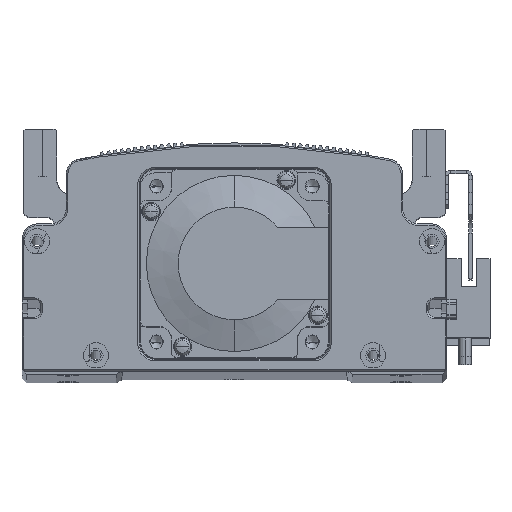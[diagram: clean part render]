
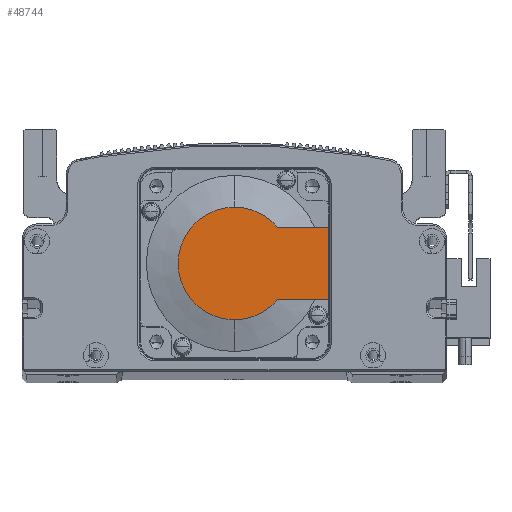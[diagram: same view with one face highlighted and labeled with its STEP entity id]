
A CAD part, top view. The second image highlights one B-rep face of the part: STEP entity #48744.
In plain terms, the highlighted planar face has unit normal (0, 0, 1) as drawn and (-1, 0, 0) by its records, which use the part's own axes.
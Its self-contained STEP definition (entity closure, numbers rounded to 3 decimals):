
#937 = EDGE_CURVE ( 'NONE', #28766, #64330, #31259, .T. ) ;
#6773 = CARTESIAN_POINT ( 'NONE',  ( -118.5, 0., 0. ) ) ;
#8258 = DIRECTION ( 'NONE',  ( 0., 0., -1. ) ) ;
#8713 = CARTESIAN_POINT ( 'NONE',  ( -118.5, 0., -17.881 ) ) ;
#8872 = DIRECTION ( 'NONE',  ( 0., -1., 0. ) ) ;
#11588 = EDGE_CURVE ( 'NONE', #54907, #25966, #30714, .T. ) ;
#12305 = AXIS2_PLACEMENT_3D ( 'NONE', #6773, #18538, #35531 ) ;
#13307 = CARTESIAN_POINT ( 'NONE',  ( -118.5, 0., 17.881 ) ) ;
#14462 = DIRECTION ( 'NONE',  ( 0., -1., 0. ) ) ;
#14911 = ORIENTED_EDGE ( 'NONE', *, *, #53901, .T. ) ;
#15254 = VERTEX_POINT ( 'NONE', #8713 ) ;
#15622 = EDGE_CURVE ( 'NONE', #28766, #54907, #70186, .T. ) ;
#16248 = CIRCLE ( 'NONE', #12305, 17.881 ) ;
#18538 = DIRECTION ( 'NONE',  ( -1., 0., 0. ) ) ;
#18861 = CARTESIAN_POINT ( 'NONE',  ( -118.5, 30., 25. ) ) ;
#19059 = CARTESIAN_POINT ( 'NONE',  ( -118.5, 30., -11.45 ) ) ;
#23585 = FACE_OUTER_BOUND ( 'NONE', #56475, .T. ) ;
#24642 = AXIS2_PLACEMENT_3D ( 'NONE', #41989, #25442, #8258 ) ;
#24720 = DIRECTION ( 'NONE',  ( -1., 0., 0. ) ) ;
#25442 = DIRECTION ( 'NONE',  ( -1., 0., 0. ) ) ;
#25453 = DIRECTION ( 'NONE',  ( 0., 0., -1. ) ) ;
#25559 = CARTESIAN_POINT ( 'NONE',  ( -118.5, -8.941, -11.45 ) ) ;
#25966 = VERTEX_POINT ( 'NONE', #53824 ) ;
#26745 = AXIS2_PLACEMENT_3D ( 'NONE', #71953, #71707, #66345 ) ;
#28168 = AXIS2_PLACEMENT_3D ( 'NONE', #58538, #24720, #25453 ) ;
#28766 = VERTEX_POINT ( 'NONE', #19059 ) ;
#30714 = LINE ( 'NONE', #48447, #60747 ) ;
#31259 = LINE ( 'NONE', #25559, #55989 ) ;
#31585 = PLANE ( 'NONE',  #26745 ) ;
#32241 = VERTEX_POINT ( 'NONE', #13307 ) ;
#33429 = ORIENTED_EDGE ( 'NONE', *, *, #59443, .T. ) ;
#35531 = DIRECTION ( 'NONE',  ( 0., 0., -1. ) ) ;
#36402 = ORIENTED_EDGE ( 'NONE', *, *, #937, .T. ) ;
#37855 = EDGE_CURVE ( 'NONE', #15254, #32241, #40096, .T. ) ;
#40096 = CIRCLE ( 'NONE', #28168, 17.881 ) ;
#40850 = ORIENTED_EDGE ( 'NONE', *, *, #11588, .F. ) ;
#41989 = CARTESIAN_POINT ( 'NONE',  ( -118.5, 0., 0. ) ) ;
#47679 = DIRECTION ( 'NONE',  ( 0., 0., 1. ) ) ;
#48447 = CARTESIAN_POINT ( 'NONE',  ( -118.5, 0., 11.45 ) ) ;
#48744 = ADVANCED_FACE ( 'NONE', ( #23585 ), #31585, .T. ) ;
#50811 = ORIENTED_EDGE ( 'NONE', *, *, #37855, .T. ) ;
#53824 = CARTESIAN_POINT ( 'NONE',  ( -118.5, 13.735, 11.45 ) ) ;
#53901 = EDGE_CURVE ( 'NONE', #32241, #25966, #61336, .T. ) ;
#54907 = VERTEX_POINT ( 'NONE', #68620 ) ;
#55758 = ORIENTED_EDGE ( 'NONE', *, *, #15622, .F. ) ;
#55989 = VECTOR ( 'NONE', #8872, 1000. ) ;
#56475 = EDGE_LOOP ( 'NONE', ( #36402, #33429, #50811, #14911, #40850, #55758 ) ) ;
#58538 = CARTESIAN_POINT ( 'NONE',  ( -118.5, 0., 0. ) ) ;
#59443 = EDGE_CURVE ( 'NONE', #64330, #15254, #16248, .T. ) ;
#59660 = VECTOR ( 'NONE', #47679, 1000. ) ;
#60141 = CARTESIAN_POINT ( 'NONE',  ( -118.5, 13.735, -11.45 ) ) ;
#60747 = VECTOR ( 'NONE', #14462, 1000. ) ;
#61336 = CIRCLE ( 'NONE', #24642, 17.881 ) ;
#64330 = VERTEX_POINT ( 'NONE', #60141 ) ;
#66345 = DIRECTION ( 'NONE',  ( 0., 0., 1. ) ) ;
#68620 = CARTESIAN_POINT ( 'NONE',  ( -118.5, 30., 11.45 ) ) ;
#70186 = LINE ( 'NONE', #18861, #59660 ) ;
#71707 = DIRECTION ( 'NONE',  ( -1., 0., 0. ) ) ;
#71953 = CARTESIAN_POINT ( 'NONE',  ( -118.5, -8.941, 0. ) ) ;
